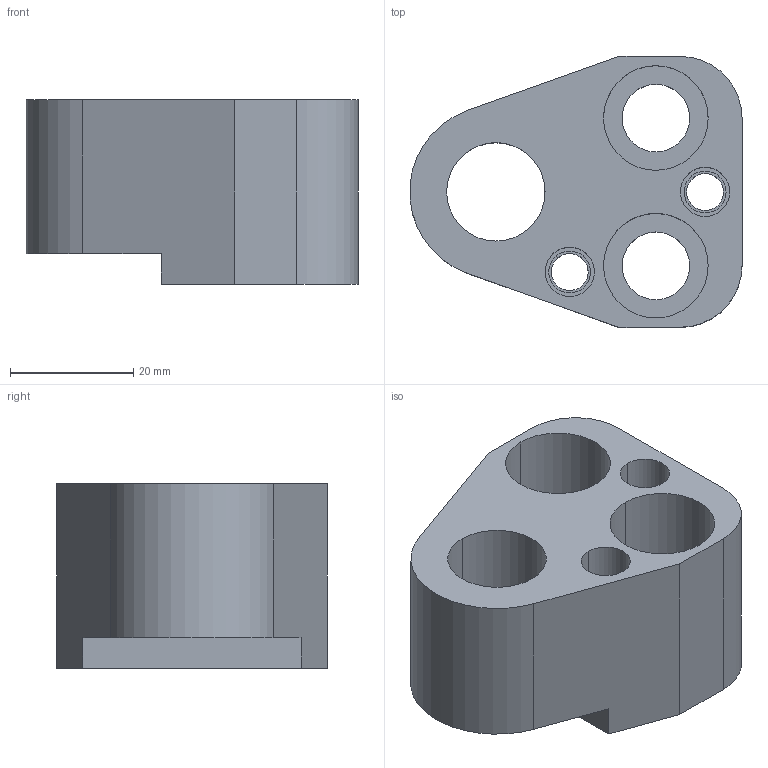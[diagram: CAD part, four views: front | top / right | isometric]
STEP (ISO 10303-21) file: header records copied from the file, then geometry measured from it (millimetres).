
FILE_DESCRIPTION(/* description */ (''),/* implementation_level */ '2;1');
FILE_NAME(/* name */ '3d_dp-fn16_03698_r00.stp',/* time_stamp */ '2011-01-10T14:15:56+09:00',/* author */ ('MISUMI'),/* organization */ (''),/* preprocessor_version */ 'ST-DEVELOPER v11',/* originating_system */ 'UGS - NX 5.0',/* authorisation */ '');
FILE_SCHEMA (('CONFIG_CONTROL_DESIGN'));
Length unit declared in the file: millimetre
Products named in the file (1): 3d_dp-fn16_03698_r00
Bounding box: 53.95 x 44 x 30 mm (x, y, z)
Volume: 37355.7 mm3; surface area: 12726.7 mm2
Topology: 1 solids, 1 shells, 42 faces, 104 edges, 69 vertices
Faces by surface type: cylinder 25, plane 15, cone 2
Entity records: 1382 total; most frequent: DIRECTION 242, CARTESIAN_POINT 221, ORIENTED_EDGE 208, EDGE_CURVE 104, AXIS2_PLACEMENT_3D 96, VERTEX_POINT 69, EDGE_LOOP 57, CIRCLE 53
